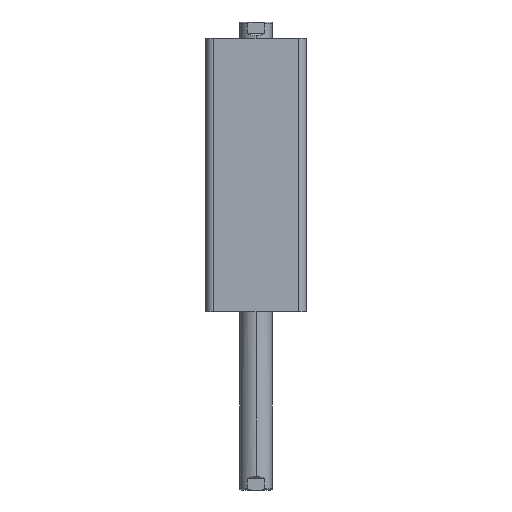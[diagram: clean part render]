
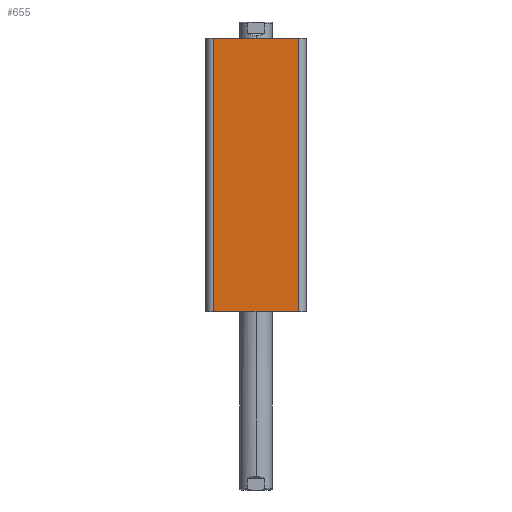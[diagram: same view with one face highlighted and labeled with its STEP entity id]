
A CAD part, left-side view. The second image highlights one B-rep face of the part: STEP entity #655.
In plain terms, the highlighted planar face has unit normal (-1, 0, 0).
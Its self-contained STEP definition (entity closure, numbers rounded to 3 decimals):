
#71 = AXIS2_PLACEMENT_3D ( 'NONE', #255, #234, #233 ) ;
#233 = DIRECTION ( 'NONE',  ( 0., 1., 0. ) ) ;
#234 = DIRECTION ( 'NONE',  ( 1., 0., 0. ) ) ;
#245 = PLANE ( 'NONE',  #71 ) ;
#255 = CARTESIAN_POINT ( 'NONE',  ( -31., 31., 169. ) ) ;
#366 = ORIENTED_EDGE ( 'NONE', *, *, #2757, .T. ) ;
#388 = ORIENTED_EDGE ( 'NONE', *, *, #2755, .F. ) ;
#397 = ORIENTED_EDGE ( 'NONE', *, *, #2756, .T. ) ;
#655 = ADVANCED_FACE ( 'NONE', ( #2441 ), #245, .F. ) ;
#918 = CARTESIAN_POINT ( 'NONE',  ( -31., 31., 169. ) ) ;
#929 = CARTESIAN_POINT ( 'NONE',  ( -31., 26., 169. ) ) ;
#931 = DIRECTION ( 'NONE',  ( 0., 0., -1. ) ) ;
#932 = DIRECTION ( 'NONE',  ( 0., -1., 0. ) ) ;
#933 = CARTESIAN_POINT ( 'NONE',  ( -31., -26., 169. ) ) ;
#934 = DIRECTION ( 'NONE',  ( 0., 0., 1. ) ) ;
#935 = CARTESIAN_POINT ( 'NONE',  ( -31., 31., 0. ) ) ;
#936 = DIRECTION ( 'NONE',  ( 0., -1., 0. ) ) ;
#1548 = VERTEX_POINT ( 'NONE', #3175 ) ;
#1549 = VERTEX_POINT ( 'NONE', #3176 ) ;
#1553 = VERTEX_POINT ( 'NONE', #3180 ) ;
#1554 = VERTEX_POINT ( 'NONE', #3181 ) ;
#1675 = ORIENTED_EDGE ( 'NONE', *, *, #2754, .T. ) ;
#1896 = LINE ( 'NONE', #918, #1907 ) ;
#1902 = LINE ( 'NONE', #929, #1905 ) ;
#1905 = VECTOR ( 'NONE', #931, 1000. ) ;
#1906 = LINE ( 'NONE', #933, #1909 ) ;
#1907 = VECTOR ( 'NONE', #932, 1000. ) ;
#1908 = LINE ( 'NONE', #935, #1911 ) ;
#1909 = VECTOR ( 'NONE', #934, 1000. ) ;
#1911 = VECTOR ( 'NONE', #936, 1000. ) ;
#2299 = EDGE_LOOP ( 'NONE', ( #366, #397, #388, #1675 ) ) ;
#2441 = FACE_OUTER_BOUND ( 'NONE', #2299, .T. ) ;
#2754 = EDGE_CURVE ( 'NONE', #1549, #1554, #1902, .T. ) ;
#2755 = EDGE_CURVE ( 'NONE', #1549, #1548, #1896, .T. ) ;
#2756 = EDGE_CURVE ( 'NONE', #1553, #1548, #1906, .T. ) ;
#2757 = EDGE_CURVE ( 'NONE', #1554, #1553, #1908, .T. ) ;
#3175 = CARTESIAN_POINT ( 'NONE',  ( -31., -26., 169. ) ) ;
#3176 = CARTESIAN_POINT ( 'NONE',  ( -31., 26., 169. ) ) ;
#3180 = CARTESIAN_POINT ( 'NONE',  ( -31., -26., 0. ) ) ;
#3181 = CARTESIAN_POINT ( 'NONE',  ( -31., 26., 0. ) ) ;
